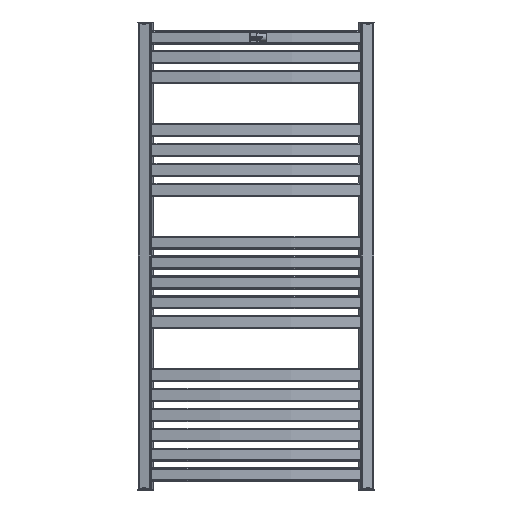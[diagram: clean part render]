
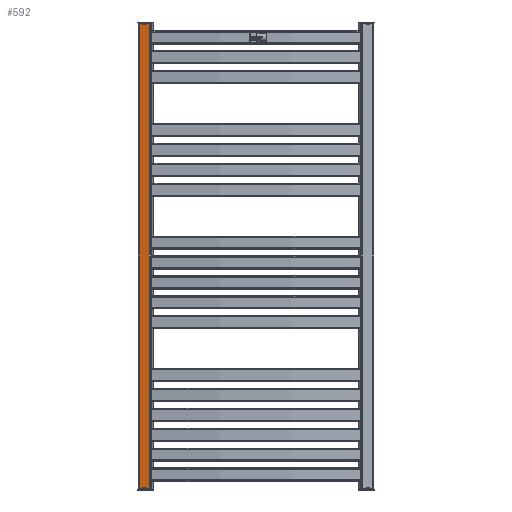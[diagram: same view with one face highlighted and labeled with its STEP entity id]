
A CAD part, front view. The second image highlights one B-rep face of the part: STEP entity #592.
In plain terms, the highlighted planar face has unit normal (-0.205, -0.979, 0) as drawn and (1, 0, 0) by its records, which use the part's own axes.
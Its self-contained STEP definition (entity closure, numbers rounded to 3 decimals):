
#592 = ADVANCED_FACE( '', ( #1258 ), #1259, .T. );
#1258 = FACE_OUTER_BOUND( '', #2008, .T. );
#1259 = PLANE( '', #2009 );
#2008 = EDGE_LOOP( '', ( #3753, #3754, #3755, #3756 ) );
#2009 = AXIS2_PLACEMENT_3D( '', #3757, #3758, #3759 );
#3753 = ORIENTED_EDGE( '', *, *, #4382, .T. );
#3754 = ORIENTED_EDGE( '', *, *, #4321, .T. );
#3755 = ORIENTED_EDGE( '', *, *, #4399, .F. );
#3756 = ORIENTED_EDGE( '', *, *, #4974, .T. );
#3757 = CARTESIAN_POINT( '', ( 15., 1056., -15. ) );
#3758 = DIRECTION( '', ( 1., 0., 0. ) );
#3759 = DIRECTION( '', ( 0., 0., -1. ) );
#4321 = EDGE_CURVE( '', #5161, #5165, #5167, .T. );
#4382 = EDGE_CURVE( '', #5273, #5161, #5274, .T. );
#4399 = EDGE_CURVE( '', #5301, #5165, #5302, .T. );
#4974 = EDGE_CURVE( '', #5301, #5273, #6163, .F. );
#5161 = VERTEX_POINT( '', #6385 );
#5165 = VERTEX_POINT( '', #6390 );
#5167 = LINE( '', #6392, #6393 );
#5273 = VERTEX_POINT( '', #6518 );
#5274 = LINE( '', #6519, #6520 );
#5301 = VERTEX_POINT( '', #6555 );
#5302 = LINE( '', #6556, #6557 );
#6163 = LINE( '', #7702, #7703 );
#6385 = CARTESIAN_POINT( '', ( 15., 1056., 12. ) );
#6390 = CARTESIAN_POINT( '', ( 15., 0., 12. ) );
#6392 = CARTESIAN_POINT( '', ( 15., 1056., 12. ) );
#6393 = VECTOR( '', #7909, 1000. );
#6518 = CARTESIAN_POINT( '', ( 15., 1056., -12. ) );
#6519 = CARTESIAN_POINT( '', ( 15., 1056., -15. ) );
#6520 = VECTOR( '', #8016, 1000. );
#6555 = CARTESIAN_POINT( '', ( 15., 0., -12. ) );
#6556 = CARTESIAN_POINT( '', ( 15., 0., -15. ) );
#6557 = VECTOR( '', #8043, 1000. );
#7702 = CARTESIAN_POINT( '', ( 15., 1056., -12. ) );
#7703 = VECTOR( '', #8781, 1000. );
#7909 = DIRECTION( '', ( 0., -1., 0. ) );
#8016 = DIRECTION( '', ( 0., 0., 1. ) );
#8043 = DIRECTION( '', ( 0., 0., 1. ) );
#8781 = DIRECTION( '', ( 0., -1., 0. ) );
